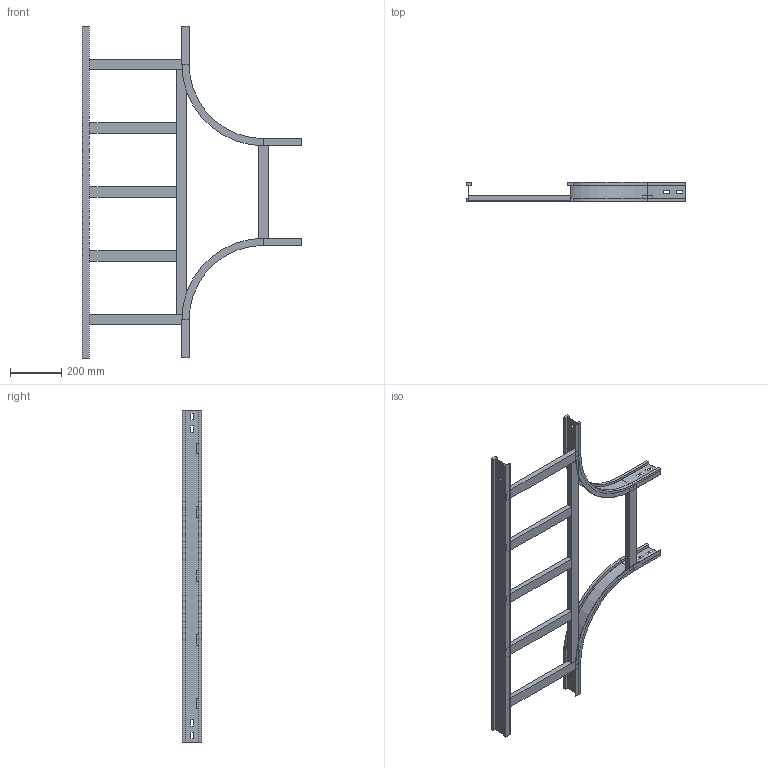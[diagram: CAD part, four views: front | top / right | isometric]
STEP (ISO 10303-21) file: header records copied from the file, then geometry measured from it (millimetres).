
FILE_DESCRIPTION (( 'STEP AP214' ), '1' );
FILE_NAME ('15S3C400.step', '2025-02-21T16:14:47', ( '' ), ( '' ), 'SwSTEP 2.0', 'SolidWorks 2023', '' );
FILE_SCHEMA (( 'AUTOMOTIVE_DESIGN' ));
Length unit declared in the file: millimetre
Products named in the file (6): 15S3C400; LONGH.INTERNO 90°_H75_R300; TRAVERSINO_400; LONGH.RETT_H75_R300+400; TRAVERSINO_LONG._R300+400; TRAVERSINO_INTERMEDIO_R300+400
Assembly tree (10 placements, depth 2):
  15S3C400
    LONGH.INTERNO 90°_H75_R300  x2
    LONGH.RETT_H75_R300+400
    TRAVERSINO_400  x3
    TRAVERSINO_LONG._R300+400
    TRAVERSINO_INTERMEDIO_R300+400  x3
Bounding box: 859 x 75 x 1300 mm (x, y, z)
Volume: 4005980.8 mm3; surface area: 1103172.4 mm2
Topology: 10 solids, 10 shells, 180 faces, 432 edges, 272 vertices
Faces by surface type: plane 168, cylinder 12
Entity records: 3195 total; most frequent: CARTESIAN_POINT 527, ORIENTED_EDGE 504, DIRECTION 494, EDGE_CURVE 252, VECTOR 240, LINE 240, VERTEX_POINT 160, AXIS2_PLACEMENT_3D 127
